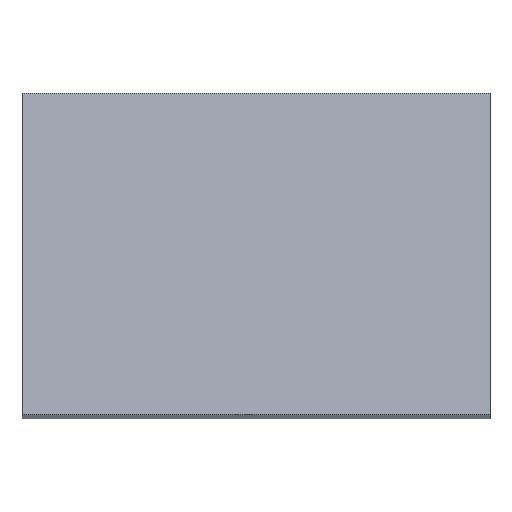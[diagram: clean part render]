
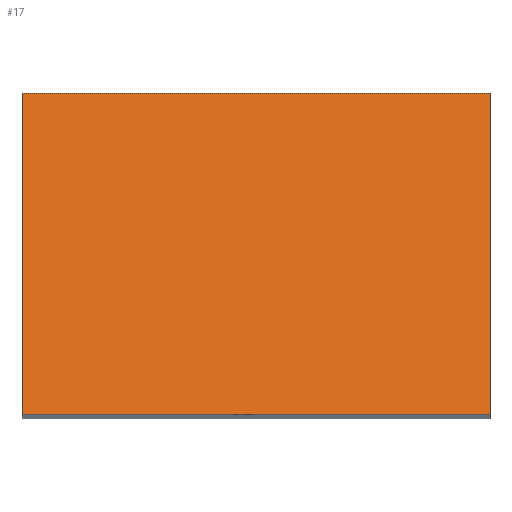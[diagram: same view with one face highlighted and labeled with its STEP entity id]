
A CAD part, left-side view. The second image highlights one B-rep face of the part: STEP entity #17.
In plain terms, the highlighted planar face has unit normal (-0.976, 0, 0.216).
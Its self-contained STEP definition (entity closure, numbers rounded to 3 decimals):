
#17 = ADVANCED_FACE('',(#18),#32,.F.);
#18 = FACE_BOUND('',#19,.F.);
#19 = EDGE_LOOP('',(#20,#55,#83,#111));
#20 = ORIENTED_EDGE('',*,*,#21,.F.);
#21 = EDGE_CURVE('',#22,#24,#26,.T.);
#22 = VERTEX_POINT('',#23);
#23 = CARTESIAN_POINT('',(3.806,-17.,179.429));
#24 = VERTEX_POINT('',#25);
#25 = CARTESIAN_POINT('',(8.979,-17.,202.763));
#26 = SURFACE_CURVE('',#27,(#31,#43),.PCURVE_S1.);
#27 = LINE('',#28,#29);
#28 = CARTESIAN_POINT('',(3.806,-17.,179.429));
#29 = VECTOR('',#30,1.);
#30 = DIRECTION('',(0.216,0.,0.976));
#31 = PCURVE('',#32,#37);
#32 = PLANE('',#33);
#33 = AXIS2_PLACEMENT_3D('',#34,#35,#36);
#34 = CARTESIAN_POINT('',(3.806,-17.,179.429));
#35 = DIRECTION('',(0.976,0.,-0.216));
#36 = DIRECTION('',(0.216,0.,0.976));
#37 = DEFINITIONAL_REPRESENTATION('',(#38),#42);
#38 = LINE('',#39,#40);
#39 = CARTESIAN_POINT('',(0.,0.));
#40 = VECTOR('',#41,1.);
#41 = DIRECTION('',(1.,0.));
#42 = ( GEOMETRIC_REPRESENTATION_CONTEXT(2) 
PARAMETRIC_REPRESENTATION_CONTEXT() REPRESENTATION_CONTEXT('2D SPACE',''
  ) );
#43 = PCURVE('',#44,#49);
#44 = PLANE('',#45);
#45 = AXIS2_PLACEMENT_3D('',#46,#47,#48);
#46 = CARTESIAN_POINT('',(3.806,-17.,179.429));
#47 = DIRECTION('',(0.,1.,0.));
#48 = DIRECTION('',(0.216,0.,0.976));
#49 = DEFINITIONAL_REPRESENTATION('',(#50),#54);
#50 = LINE('',#51,#52);
#51 = CARTESIAN_POINT('',(0.,0.));
#52 = VECTOR('',#53,1.);
#53 = DIRECTION('',(1.,0.));
#54 = ( GEOMETRIC_REPRESENTATION_CONTEXT(2) 
PARAMETRIC_REPRESENTATION_CONTEXT() REPRESENTATION_CONTEXT('2D SPACE',''
  ) );
#55 = ORIENTED_EDGE('',*,*,#56,.T.);
#56 = EDGE_CURVE('',#22,#57,#59,.T.);
#57 = VERTEX_POINT('',#58);
#58 = CARTESIAN_POINT('',(3.806,17.,179.429));
#59 = SURFACE_CURVE('',#60,(#64,#71),.PCURVE_S1.);
#60 = LINE('',#61,#62);
#61 = CARTESIAN_POINT('',(3.806,-17.,179.429));
#62 = VECTOR('',#63,1.);
#63 = DIRECTION('',(0.,1.,0.));
#64 = PCURVE('',#32,#65);
#65 = DEFINITIONAL_REPRESENTATION('',(#66),#70);
#66 = LINE('',#67,#68);
#67 = CARTESIAN_POINT('',(0.,0.));
#68 = VECTOR('',#69,1.);
#69 = DIRECTION('',(0.,-1.));
#70 = ( GEOMETRIC_REPRESENTATION_CONTEXT(2) 
PARAMETRIC_REPRESENTATION_CONTEXT() REPRESENTATION_CONTEXT('2D SPACE',''
  ) );
#71 = PCURVE('',#72,#77);
#72 = PLANE('',#73);
#73 = AXIS2_PLACEMENT_3D('',#74,#75,#76);
#74 = CARTESIAN_POINT('',(3.806,-17.,179.429));
#75 = DIRECTION('',(0.216,0.,0.976));
#76 = DIRECTION('',(0.976,0.,-0.216));
#77 = DEFINITIONAL_REPRESENTATION('',(#78),#82);
#78 = LINE('',#79,#80);
#79 = CARTESIAN_POINT('',(0.,0.));
#80 = VECTOR('',#81,1.);
#81 = DIRECTION('',(0.,1.));
#82 = ( GEOMETRIC_REPRESENTATION_CONTEXT(2) 
PARAMETRIC_REPRESENTATION_CONTEXT() REPRESENTATION_CONTEXT('2D SPACE',''
  ) );
#83 = ORIENTED_EDGE('',*,*,#84,.T.);
#84 = EDGE_CURVE('',#57,#85,#87,.T.);
#85 = VERTEX_POINT('',#86);
#86 = CARTESIAN_POINT('',(8.979,17.,202.763));
#87 = SURFACE_CURVE('',#88,(#92,#99),.PCURVE_S1.);
#88 = LINE('',#89,#90);
#89 = CARTESIAN_POINT('',(3.806,17.,179.429));
#90 = VECTOR('',#91,1.);
#91 = DIRECTION('',(0.216,0.,0.976));
#92 = PCURVE('',#32,#93);
#93 = DEFINITIONAL_REPRESENTATION('',(#94),#98);
#94 = LINE('',#95,#96);
#95 = CARTESIAN_POINT('',(0.,-34.));
#96 = VECTOR('',#97,1.);
#97 = DIRECTION('',(1.,0.));
#98 = ( GEOMETRIC_REPRESENTATION_CONTEXT(2) 
PARAMETRIC_REPRESENTATION_CONTEXT() REPRESENTATION_CONTEXT('2D SPACE',''
  ) );
#99 = PCURVE('',#100,#105);
#100 = PLANE('',#101);
#101 = AXIS2_PLACEMENT_3D('',#102,#103,#104);
#102 = CARTESIAN_POINT('',(3.806,17.,179.429));
#103 = DIRECTION('',(0.,1.,0.));
#104 = DIRECTION('',(0.216,0.,0.976));
#105 = DEFINITIONAL_REPRESENTATION('',(#106),#110);
#106 = LINE('',#107,#108);
#107 = CARTESIAN_POINT('',(0.,0.));
#108 = VECTOR('',#109,1.);
#109 = DIRECTION('',(1.,0.));
#110 = ( GEOMETRIC_REPRESENTATION_CONTEXT(2) 
PARAMETRIC_REPRESENTATION_CONTEXT() REPRESENTATION_CONTEXT('2D SPACE',''
  ) );
#111 = ORIENTED_EDGE('',*,*,#112,.F.);
#112 = EDGE_CURVE('',#24,#85,#113,.T.);
#113 = SURFACE_CURVE('',#114,(#118,#125),.PCURVE_S1.);
#114 = LINE('',#115,#116);
#115 = CARTESIAN_POINT('',(8.979,-17.,202.763));
#116 = VECTOR('',#117,1.);
#117 = DIRECTION('',(0.,1.,0.));
#118 = PCURVE('',#32,#119);
#119 = DEFINITIONAL_REPRESENTATION('',(#120),#124);
#120 = LINE('',#121,#122);
#121 = CARTESIAN_POINT('',(23.9,0.));
#122 = VECTOR('',#123,1.);
#123 = DIRECTION('',(0.,-1.));
#124 = ( GEOMETRIC_REPRESENTATION_CONTEXT(2) 
PARAMETRIC_REPRESENTATION_CONTEXT() REPRESENTATION_CONTEXT('2D SPACE',''
  ) );
#125 = PCURVE('',#126,#131);
#126 = PLANE('',#127);
#127 = AXIS2_PLACEMENT_3D('',#128,#129,#130);
#128 = CARTESIAN_POINT('',(8.979,-17.,202.763));
#129 = DIRECTION('',(0.216,0.,0.976));
#130 = DIRECTION('',(0.976,0.,-0.216));
#131 = DEFINITIONAL_REPRESENTATION('',(#132),#136);
#132 = LINE('',#133,#134);
#133 = CARTESIAN_POINT('',(0.,0.));
#134 = VECTOR('',#135,1.);
#135 = DIRECTION('',(0.,1.));
#136 = ( GEOMETRIC_REPRESENTATION_CONTEXT(2) 
PARAMETRIC_REPRESENTATION_CONTEXT() REPRESENTATION_CONTEXT('2D SPACE',''
  ) );
